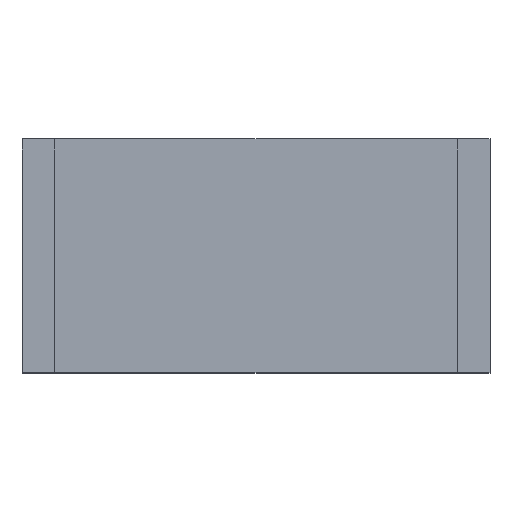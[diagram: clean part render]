
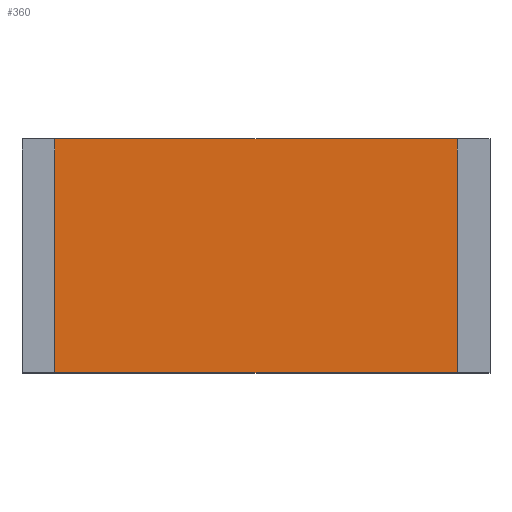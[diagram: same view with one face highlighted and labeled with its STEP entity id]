
A CAD part, top view. The second image highlights one B-rep face of the part: STEP entity #360.
In plain terms, the highlighted planar face has unit normal (0, 0, 1).
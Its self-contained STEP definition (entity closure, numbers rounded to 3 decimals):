
#360=ADVANCED_FACE('',(#759),#761,.T.);
#759=FACE_BOUND('',#760,.T.);
#760=EDGE_LOOP('',(#1046,#1047,#1048,#1049));
#761=PLANE('',#762);
#762=AXIS2_PLACEMENT_3D('',#763,#764,#765);
#763=CARTESIAN_POINT('',(0.,0.,0.495));
#764=DIRECTION('',(0.,0.,1.));
#765=DIRECTION('',(-1.,0.,0.));
#1046=ORIENTED_EDGE('',*,*,#1218,.T.);
#1047=ORIENTED_EDGE('',*,*,#1222,.T.);
#1048=ORIENTED_EDGE('',*,*,#1225,.T.);
#1049=ORIENTED_EDGE('',*,*,#1227,.T.);
#1218=EDGE_CURVE('',#1384,#1382,#1385,.T.);
#1222=EDGE_CURVE('',#1382,#1389,#1391,.T.);
#1225=EDGE_CURVE('',#1389,#1394,#1396,.T.);
#1227=EDGE_CURVE('',#1394,#1384,#1398,.T.);
#1382=VERTEX_POINT('',#1709);
#1384=VERTEX_POINT('',#1713);
#1385=LINE('',#1714,#1715);
#1389=VERTEX_POINT('',#1724);
#1391=LINE('',#1728,#1729);
#1394=VERTEX_POINT('',#1735);
#1396=LINE('',#1739,#1740);
#1398=LINE('',#1745,#1746);
#1709=CARTESIAN_POINT('',(-2.15,1.25,0.495));
#1713=CARTESIAN_POINT('',(2.15,1.25,0.495));
#1714=CARTESIAN_POINT('',(2.15,1.25,0.495));
#1715=VECTOR('',#1716,1.);
#1716=DIRECTION('',(-1.,0.,0.));
#1724=CARTESIAN_POINT('',(-2.15,-1.25,0.495));
#1728=CARTESIAN_POINT('',(-2.15,1.25,0.495));
#1729=VECTOR('',#1730,1.);
#1730=DIRECTION('',(0.,-1.,0.));
#1735=CARTESIAN_POINT('',(2.15,-1.25,0.495));
#1739=CARTESIAN_POINT('',(-2.15,-1.25,0.495));
#1740=VECTOR('',#1741,1.);
#1741=DIRECTION('',(1.,0.,0.));
#1745=CARTESIAN_POINT('',(2.15,-1.25,0.495));
#1746=VECTOR('',#1747,1.);
#1747=DIRECTION('',(0.,1.,0.));
